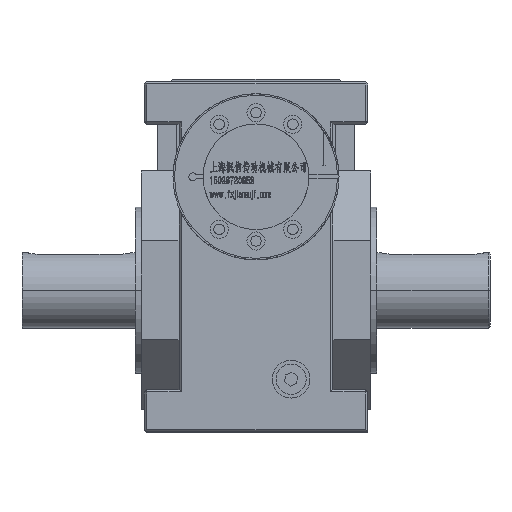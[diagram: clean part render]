
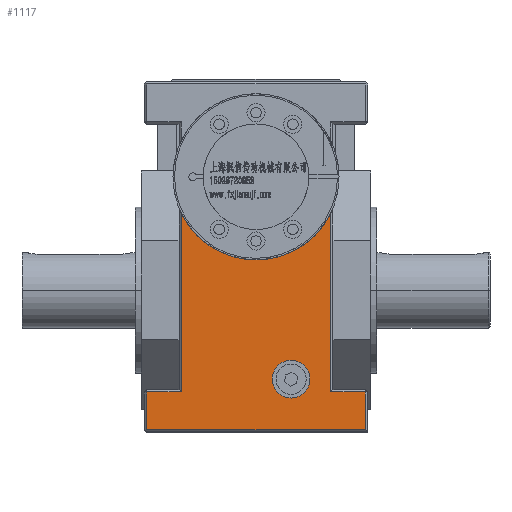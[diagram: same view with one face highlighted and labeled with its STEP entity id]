
A CAD part, top view. The second image highlights one B-rep face of the part: STEP entity #1117.
In plain terms, the highlighted planar face has unit normal (0, 0, 1).
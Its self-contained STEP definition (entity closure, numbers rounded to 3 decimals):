
#1117 = ADVANCED_FACE ( 'NONE', ( #88490, #68441 ), #103477, .F. ) ;
#1337 = VERTEX_POINT ( 'NONE', #109659 ) ;
#2161 = ORIENTED_EDGE ( 'NONE', *, *, #73978, .T. ) ;
#4589 = EDGE_CURVE ( 'NONE', #78118, #40088, #40063, .T. ) ;
#7252 = CARTESIAN_POINT ( 'NONE',  ( -72.5, 138., 104. ) ) ;
#7603 = VECTOR ( 'NONE', #107535, 1000. ) ;
#7907 = AXIS2_PLACEMENT_3D ( 'NONE', #44189, #41925, #77048 ) ;
#8777 = CARTESIAN_POINT ( 'NONE',  ( 49.5, -67.5, 104. ) ) ;
#9450 = EDGE_CURVE ( 'NONE', #75263, #1337, #103246, .T. ) ;
#10075 = LINE ( 'NONE', #72753, #95264 ) ;
#11925 = DIRECTION ( 'NONE',  ( -1., 0., 0. ) ) ;
#15359 = EDGE_LOOP ( 'NONE', ( #66900, #92574 ) ) ;
#18951 = LINE ( 'NONE', #54006, #112378 ) ;
#20549 = CARTESIAN_POINT ( 'NONE',  ( 35.762, -59., 104. ) ) ;
#22647 = EDGE_CURVE ( 'NONE', #32143, #49816, #110686, .T. ) ;
#23285 = DIRECTION ( 'NONE',  ( 1., 0., 0. ) ) ;
#23628 = ORIENTED_EDGE ( 'NONE', *, *, #97378, .T. ) ;
#27405 = DIRECTION ( 'NONE',  ( 1., 0., 0. ) ) ;
#28822 = CARTESIAN_POINT ( 'NONE',  ( 72.5, -92.5, 104. ) ) ;
#30673 = ORIENTED_EDGE ( 'NONE', *, *, #22647, .T. ) ;
#31930 = CARTESIAN_POINT ( 'NONE',  ( 74., -92.5, 104. ) ) ;
#32143 = VERTEX_POINT ( 'NONE', #92982 ) ;
#34173 = DIRECTION ( 'NONE',  ( 0., 0., 1. ) ) ;
#35427 = VECTOR ( 'NONE', #76778, 1000. ) ;
#35931 = DIRECTION ( 'NONE',  ( 0., -1., 0. ) ) ;
#39709 = CARTESIAN_POINT ( 'NONE',  ( 49.5, 51.026, 104. ) ) ;
#40063 = LINE ( 'NONE', #72512, #7603 ) ;
#40088 = VERTEX_POINT ( 'NONE', #8777 ) ;
#41925 = DIRECTION ( 'NONE',  ( 0., 0., -1. ) ) ;
#43446 = EDGE_CURVE ( 'NONE', #50545, #102125, #10075, .T. ) ;
#44189 = CARTESIAN_POINT ( 'NONE',  ( 74., 138., 104. ) ) ;
#45544 = ORIENTED_EDGE ( 'NONE', *, *, #59765, .T. ) ;
#49816 = VERTEX_POINT ( 'NONE', #28822 ) ;
#50545 = VERTEX_POINT ( 'NONE', #97983 ) ;
#53273 = DIRECTION ( 'NONE',  ( 0., 0., 1. ) ) ;
#53649 = AXIS2_PLACEMENT_3D ( 'NONE', #85405, #34173, #23285 ) ;
#54006 = CARTESIAN_POINT ( 'NONE',  ( 72.5, -66., 104. ) ) ;
#55618 = ORIENTED_EDGE ( 'NONE', *, *, #61443, .F. ) ;
#56658 = AXIS2_PLACEMENT_3D ( 'NONE', #103929, #53273, #27405 ) ;
#59765 = EDGE_CURVE ( 'NONE', #102125, #113178, #100451, .T. ) ;
#60459 = VECTOR ( 'NONE', #95860, 1000. ) ;
#61443 = EDGE_CURVE ( 'NONE', #50545, #86366, #94128, .T. ) ;
#64600 = CARTESIAN_POINT ( 'NONE',  ( 72.5, -67.5, 104. ) ) ;
#66900 = ORIENTED_EDGE ( 'NONE', *, *, #9450, .F. ) ;
#66951 = EDGE_LOOP ( 'NONE', ( #30673, #106458, #71149, #2161, #55618, #111271, #45544, #23628 ) ) ;
#68291 = VECTOR ( 'NONE', #11925, 1000. ) ;
#68441 = FACE_OUTER_BOUND ( 'NONE', #66951, .T. ) ;
#71048 = VECTOR ( 'NONE', #94095, 1000. ) ;
#71149 = ORIENTED_EDGE ( 'NONE', *, *, #4589, .T. ) ;
#72512 = CARTESIAN_POINT ( 'NONE',  ( 74., -67.5, 104. ) ) ;
#72753 = CARTESIAN_POINT ( 'NONE',  ( -49.5, -66., 104. ) ) ;
#73978 = EDGE_CURVE ( 'NONE', #40088, #86366, #102758, .T. ) ;
#75263 = VERTEX_POINT ( 'NONE', #20549 ) ;
#76778 = DIRECTION ( 'NONE',  ( 1., 0., 0. ) ) ;
#76868 = CIRCLE ( 'NONE', #56658, 12.5 ) ;
#77048 = DIRECTION ( 'NONE',  ( -1., 0., 0. ) ) ;
#78118 = VERTEX_POINT ( 'NONE', #64600 ) ;
#78482 = EDGE_CURVE ( 'NONE', #49816, #78118, #18951, .T. ) ;
#82466 = CARTESIAN_POINT ( 'NONE',  ( -49.5, -67.5, 104. ) ) ;
#82954 = DIRECTION ( 'NONE',  ( 0., 1., 0. ) ) ;
#83531 = CARTESIAN_POINT ( 'NONE',  ( 0., 75., 104. ) ) ;
#85405 = CARTESIAN_POINT ( 'NONE',  ( 23.262, -59., 104. ) ) ;
#86045 = LINE ( 'NONE', #7252, #71048 ) ;
#86366 = VERTEX_POINT ( 'NONE', #39709 ) ;
#88490 = FACE_BOUND ( 'NONE', #15359, .T. ) ;
#89105 = DIRECTION ( 'NONE',  ( 0., 1., 0. ) ) ;
#90706 = CARTESIAN_POINT ( 'NONE',  ( -74., -67.5, 104. ) ) ;
#90998 = DIRECTION ( 'NONE',  ( 0., 0., 1. ) ) ;
#92574 = ORIENTED_EDGE ( 'NONE', *, *, #100612, .F. ) ;
#92982 = CARTESIAN_POINT ( 'NONE',  ( -72.5, -92.5, 104. ) ) ;
#94095 = DIRECTION ( 'NONE',  ( 0., -1., 0. ) ) ;
#94128 = CIRCLE ( 'NONE', #105182, 55. ) ;
#95264 = VECTOR ( 'NONE', #35931, 1000. ) ;
#95860 = DIRECTION ( 'NONE',  ( 0., 1., 0. ) ) ;
#97378 = EDGE_CURVE ( 'NONE', #113178, #32143, #86045, .T. ) ;
#97983 = CARTESIAN_POINT ( 'NONE',  ( -49.5, 51.026, 104. ) ) ;
#100451 = LINE ( 'NONE', #90706, #68291 ) ;
#100612 = EDGE_CURVE ( 'NONE', #1337, #75263, #76868, .T. ) ;
#102125 = VERTEX_POINT ( 'NONE', #82466 ) ;
#102758 = LINE ( 'NONE', #113077, #60459 ) ;
#103246 = CIRCLE ( 'NONE', #53649, 12.5 ) ;
#103477 = PLANE ( 'NONE',  #7907 ) ;
#103929 = CARTESIAN_POINT ( 'NONE',  ( 23.262, -59., 104. ) ) ;
#105182 = AXIS2_PLACEMENT_3D ( 'NONE', #83531, #90998, #82954 ) ;
#105208 = CARTESIAN_POINT ( 'NONE',  ( -72.5, -67.5, 104. ) ) ;
#106458 = ORIENTED_EDGE ( 'NONE', *, *, #78482, .T. ) ;
#107535 = DIRECTION ( 'NONE',  ( -1., 0., 0. ) ) ;
#109659 = CARTESIAN_POINT ( 'NONE',  ( 10.762, -59., 104. ) ) ;
#110686 = LINE ( 'NONE', #31930, #35427 ) ;
#111271 = ORIENTED_EDGE ( 'NONE', *, *, #43446, .T. ) ;
#112378 = VECTOR ( 'NONE', #89105, 1000. ) ;
#113077 = CARTESIAN_POINT ( 'NONE',  ( 49.5, 54.409, 104. ) ) ;
#113178 = VERTEX_POINT ( 'NONE', #105208 ) ;
